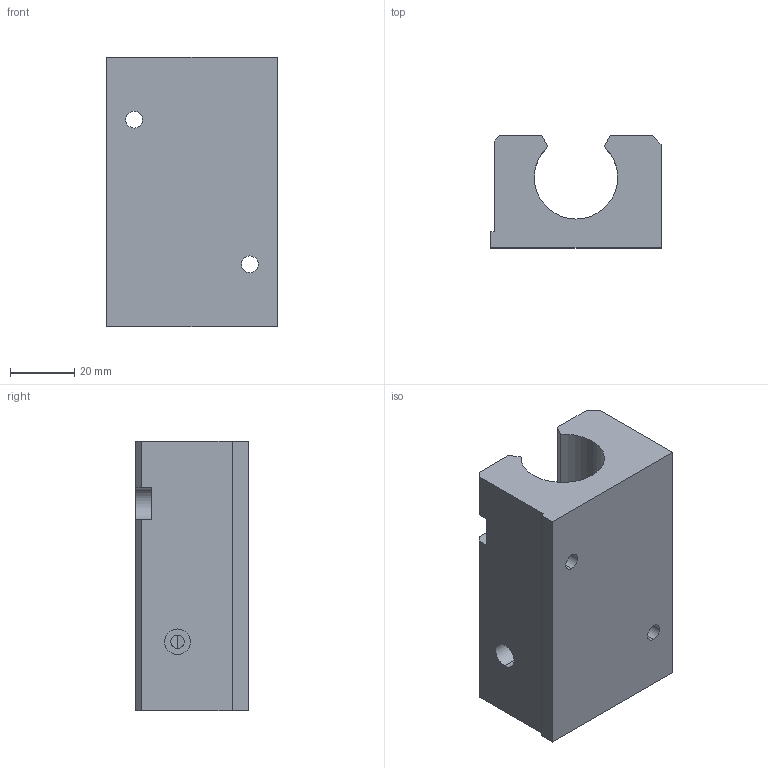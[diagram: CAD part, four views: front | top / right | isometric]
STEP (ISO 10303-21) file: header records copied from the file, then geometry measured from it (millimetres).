
FILE_DESCRIPTION (( 'STEP AP214' ), '1' );
FILE_NAME ('KTGO87-16.step', '2020-03-04T13:27:54', ( '' ), ( '' ), 'SwSTEP 2.0', 'SolidWorks 2019', '' );
FILE_SCHEMA (( 'AUTOMOTIVE_DESIGN' ));
Length unit declared in the file: millimetre
Products named in the file (1): KTGO87-16
Bounding box: 53 x 35 x 84 mm (x, y, z)
Volume: 102297.2 mm3; surface area: 23102.7 mm2
Topology: 1 solids, 1 shells, 46 faces, 124 edges, 80 vertices
Faces by surface type: plane 23, cylinder 21, cone 2
Entity records: 1762 total; most frequent: CARTESIAN_POINT 421, ORIENTED_EDGE 248, DIRECTION 248, EDGE_CURVE 124, AXIS2_PLACEMENT_3D 83, VECTOR 82, LINE 82, VERTEX_POINT 80
